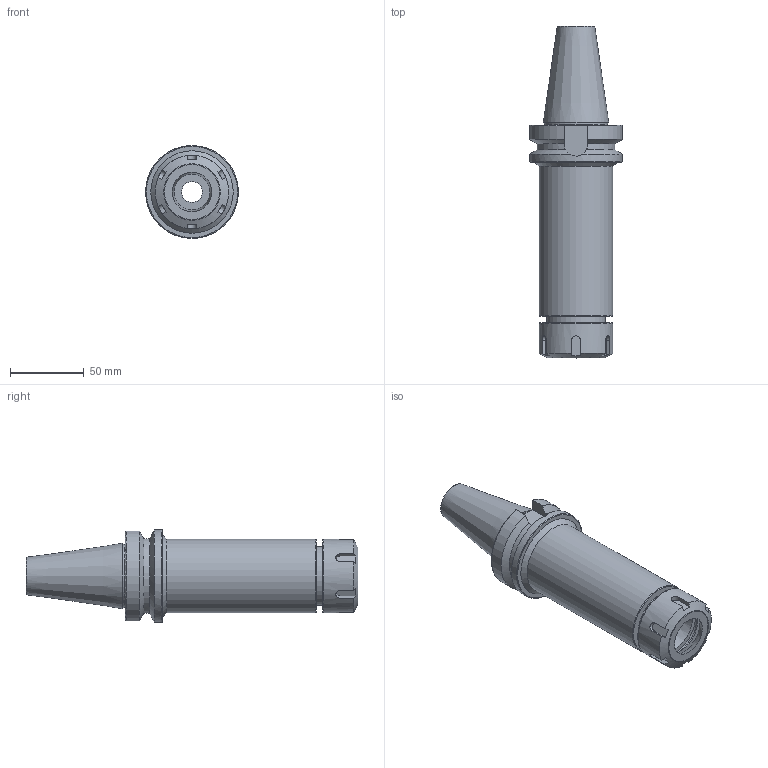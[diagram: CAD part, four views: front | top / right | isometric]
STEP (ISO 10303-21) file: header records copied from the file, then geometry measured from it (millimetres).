
FILE_DESCRIPTION(/* description */ (''),/* implementation_level */ '2;1');
FILE_NAME(/* name */ 'BT40-ER32-160.stp',/* time_stamp */ '2025-08-19T15:46:59+03:00',/* author */ ('User'),/* organization */ (''),/* preprocessor_version */ 'ST-DEVELOPER v19.2',/* originating_system */ 'Autodesk Inventor 2024',/* authorisation */ '');
FILE_SCHEMA (('AUTOMOTIVE_DESIGN { 1 0 10303 214 3 1 1 }'));
Length unit declared in the file: millimetre
Products named in the file (3): BT40-ER25-100; BT40-FMB60-75; ER25-M
Assembly tree (2 placements, depth 2):
  BT40-ER25-100
    BT40-FMB60-75
    ER25-M
Bounding box: 63 x 225.4 x 63 mm (x, y, z)
Volume: 317615.4 mm3; surface area: 58459.7 mm2
Topology: 2 solids, 2 shells, 80 faces, 207 edges, 140 vertices
Faces by surface type: plane 37, cylinder 23, cone 12, torus 8
Full cylindrical faces by diameter (mm): 14.2 x1, 17 x1, 24.13 x1, 31 x1, 38.5 x2, 40 x1, 43 x1, 50 x2, 63 x1
Entity records: 2760 total; most frequent: CARTESIAN_POINT 682, ORIENTED_EDGE 414, DIRECTION 405, EDGE_CURVE 207, AXIS2_PLACEMENT_3D 164, VERTEX_POINT 140, EDGE_LOOP 93, FACE_OUTER_BOUND 80
